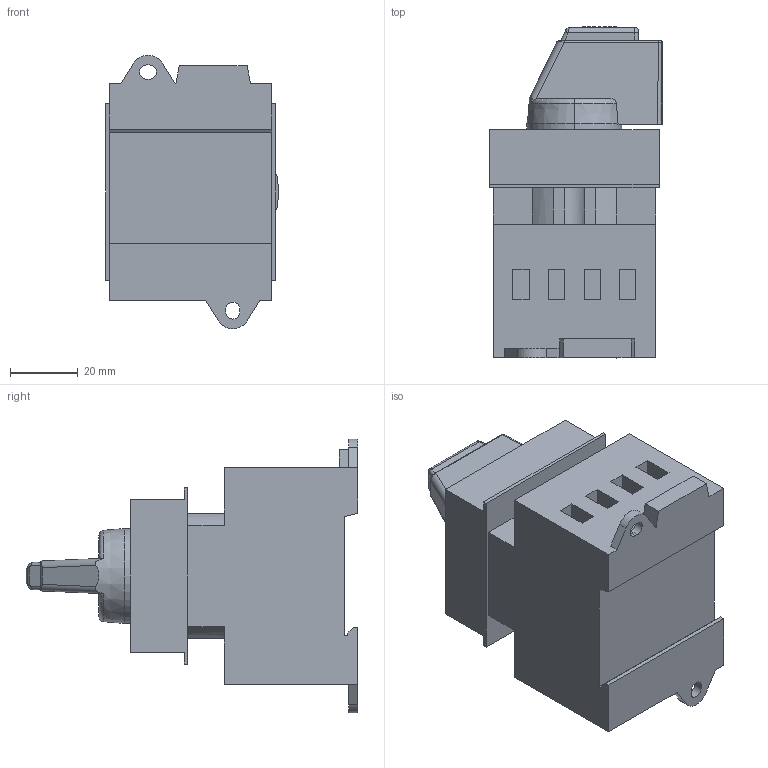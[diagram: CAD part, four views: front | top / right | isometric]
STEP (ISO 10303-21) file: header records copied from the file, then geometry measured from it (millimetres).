
FILE_DESCRIPTION (( 'STEP AP203' ), '1' );
FILE_NAME ('LTS20_25_32_40 SMAH1 A3.STEP', '2014-05-12T04:14:26', ( '' ), ( '' ), 'SwSTEP 2.0', 'SolidWorks 2014', '' );
FILE_SCHEMA (( 'CONFIG_CONTROL_DESIGN' ));
Length unit declared in the file: millimetre
Products named in the file (3): LTS20_25_32_40 SMAH1 A3; LTS25; SV1_48x48_smah1
Assembly tree (2 placements, depth 2):
  LTS20_25_32_40 SMAH1 A3
    LTS25
    SV1_48x48_smah1
Bounding box: 50.97 x 97.9 x 80.8 mm (x, y, z)
Volume: 180359.8 mm3; surface area: 34390.7 mm2
Topology: 2 solids, 2 shells, 284 faces, 711 edges, 464 vertices
Faces by surface type: plane 179, cylinder 57, bspline 38, cone 5, torus 5
Entity records: 10933 total; most frequent: CARTESIAN_POINT 4057, ORIENTED_EDGE 1418, DIRECTION 1241, EDGE_CURVE 709, LINE 473, VECTOR 473, VERTEX_POINT 464, AXIS2_PLACEMENT_3D 384
